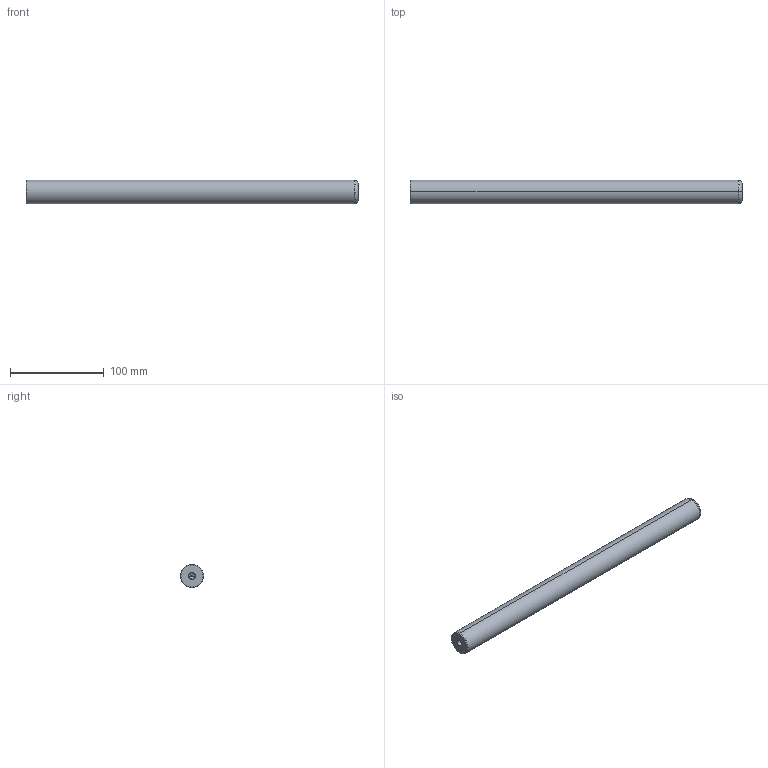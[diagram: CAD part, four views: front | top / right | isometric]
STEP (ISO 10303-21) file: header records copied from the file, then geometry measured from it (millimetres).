
FILE_DESCRIPTION(('CATIA V5 STEP Exchange'),'2;1');
FILE_NAME('C:\Users\Utente\Desktop\IO LAVORO\3D X SITO CF\X SITO\720\720-25x355.stp','2021-01-01T12:38:01+00:00',('none'),('none'),'CATIA Version 5 Release 20 GA (IN-10)','CATIA V5 STEP AP203','none');
FILE_SCHEMA(('CONFIG_CONTROL_DESIGN'));
Length unit declared in the file: millimetre
Products named in the file (1): 720-25x355
Bounding box: 355 x 25 x 25 mm (x, y, z)
Volume: 172283.5 mm3; surface area: 29692.3 mm2
Topology: 1 solids, 1 shells, 22 faces, 62 edges, 40 vertices
Faces by surface type: cone 12, cylinder 6, plane 2, torus 2
Entity records: 806 total; most frequent: CARTESIAN_POINT 229, ORIENTED_EDGE 116, DIRECTION 93, EDGE_CURVE 58, AXIS2_PLACEMENT_3D 54, VERTEX_POINT 40, CIRCLE 31, EDGE_LOOP 24
